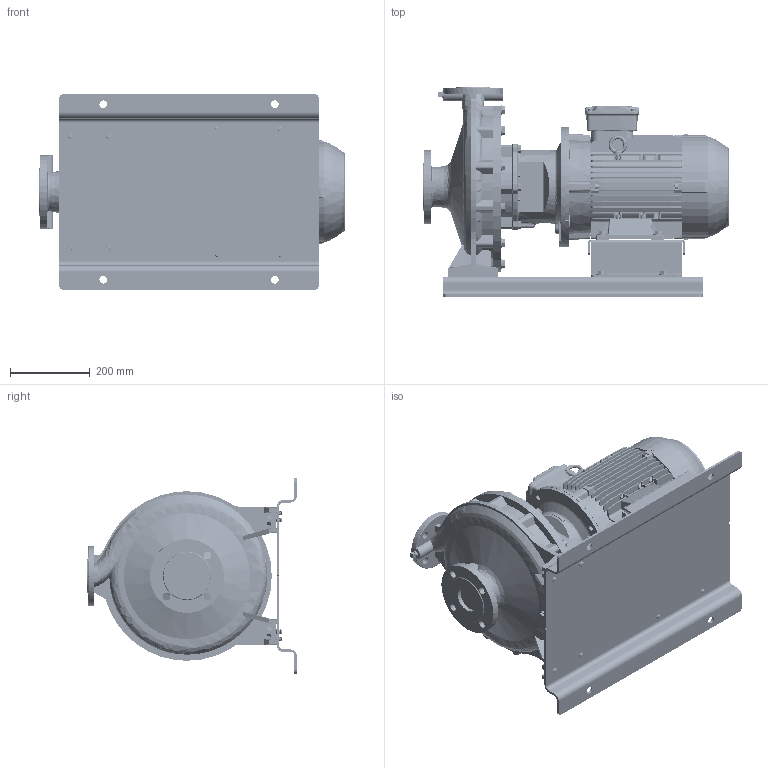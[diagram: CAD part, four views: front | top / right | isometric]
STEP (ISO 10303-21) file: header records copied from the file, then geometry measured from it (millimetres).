
FILE_DESCRIPTION (( 'STEP AP214' ), '1' );
FILE_NAME ('GSD4 40-315_5.5_(132S)_W21_BP.STEP', '2024-08-08T06:30:24', ( '' ), ( '' ), 'SwSTEP 2.0', 'SolidWorks 2019', '' );
FILE_SCHEMA (( 'AUTOMOTIVE_DESIGN' ));
Length unit declared in the file: millimetre
Products named in the file (22): Parametric bolt and washer_SFT-A253B; Parametric bolt_SFT-A253B; Parametric bolt and washer_SFT-A249B; GSD4 40-315_5.5_(132S)_W21_BP; Parametric bolt and washer_SFT-A299B; N5S5 GSDA-558 F1-1832921-00; 132S ALIE3_W21T_B35; Parametric Flat Washer_M12; 40-315-132S_______; Parametric bolt_SFT-A249B; Parametric bolt_SFT-A299B; Parametric Flat Washer_M10; 140_178 x 93 BP - CGSDA-5244
Assembly tree (40 placements, depth 3):
  GSD4 40-315_5.5_(132S)_W21_BP
    40-315-132S_______
    N5S5 GSDA-558 F1-1832921-00
    140_178 x 93 BP - CGSDA-5244
    Parametric bolt and washer_SFT-A299B
      Parametric bolt_SFT-A299B
      Parametric Flat Washer_M12
    Parametric bolt and washer_SFT-A299B
      Parametric bolt_SFT-A299B
      Parametric Flat Washer_M12
    Parametric bolt and washer_SFT-A299B
      Parametric bolt_SFT-A299B
      Parametric Flat Washer_M12
    Parametric bolt and washer_SFT-A299B
      Parametric bolt_SFT-A299B
      Parametric Flat Washer_M12
    Parametric bolt and washer_SFT-A249B
      Parametric bolt_SFT-A249B
      Parametric Flat Washer_M10
    Parametric bolt and washer_SFT-A249B
      Parametric bolt_SFT-A249B
      Parametric Flat Washer_M10
    Parametric bolt and washer_SFT-A249B
      Parametric bolt_SFT-A249B
      Parametric Flat Washer_M10
    Parametric bolt and washer_SFT-A249B
      Parametric bolt_SFT-A249B
      Parametric Flat Washer_M10
    Parametric bolt and washer_SFT-A253B
      Parametric bolt_SFT-A253B
      Parametric Flat Washer_M10
    Parametric bolt and washer_SFT-A253B
      Parametric bolt_SFT-A253B
      Parametric Flat Washer_M10
    Parametric bolt and washer_SFT-A253B
      Parametric bolt_SFT-A253B
      Parametric Flat Washer_M10
    Parametric bolt and washer_SFT-A253B
      Parametric bolt_SFT-A253B
      Parametric Flat Washer_M10
    132S ALIE3_W21T_B35
Bounding box: 764.8 x 525 x 490 mm (x, y, z)
Volume: 37951783.9 mm3; surface area: 3171873.1 mm2
Topology: 32 solids, 32 shells, 5190 faces, 13407 edges, 8627 vertices
Faces by surface type: plane 3068, cylinder 1225, cone 295, bspline 290, torus 280, sphere 32
Entity records: 175960 total; most frequent: CARTESIAN_POINT 62768, ORIENTED_EDGE 24248, DIRECTION 22013, EDGE_CURVE 12124, VECTOR 7997, LINE 7997, VERTEX_POINT 7811, AXIS2_PLACEMENT_3D 7008
